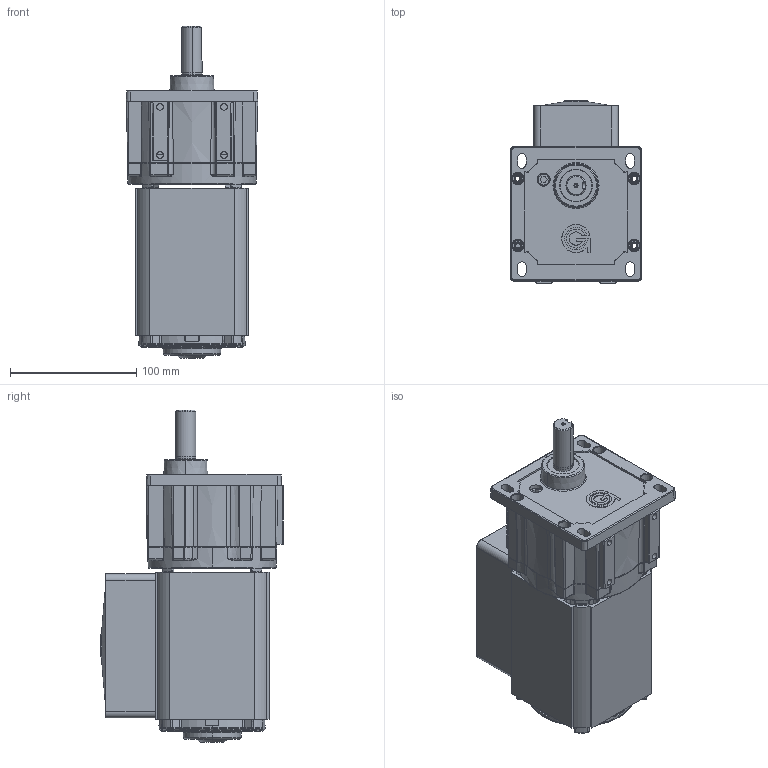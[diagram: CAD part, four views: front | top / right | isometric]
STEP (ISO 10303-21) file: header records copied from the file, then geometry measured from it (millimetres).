
FILE_DESCRIPTION (( 'STEP AP203' ), '1' );
FILE_NAME ('OUTLINE AC8040NV-PS2100.STEP', '2006-11-16T13:53:15', ( 'Groschopp' ), ( 'Groschopp' ), 'SwSTEP 2.0', 'SolidWorks 2007', '' );
FILE_SCHEMA (( 'CONFIG_CONTROL_DESIGN' ));
Length unit declared in the file: inch
Products named in the file (1): OUTLINE AC8040NV-PS2100
Bounding box: 104.29 x 144.68 x 263.39 mm (x, y, z)
Surface area: 180945.8 mm2 (no closed solid volume)
Topology: 0 solids, 31 shells, 896 faces, 2690 edges, 1758 vertices
Faces by surface type: plane 310, cylinder 194, cone 129, bspline 119, torus 116, sphere 28
Entity records: 35150 total; most frequent: CARTESIAN_POINT 11892, DIRECTION 4836, ORIENTED_EDGE 4654, EDGE_CURVE 2664, AXIS2_PLACEMENT_3D 1882, VERTEX_POINT 1756, CIRCLE 1104, VECTOR 1072
